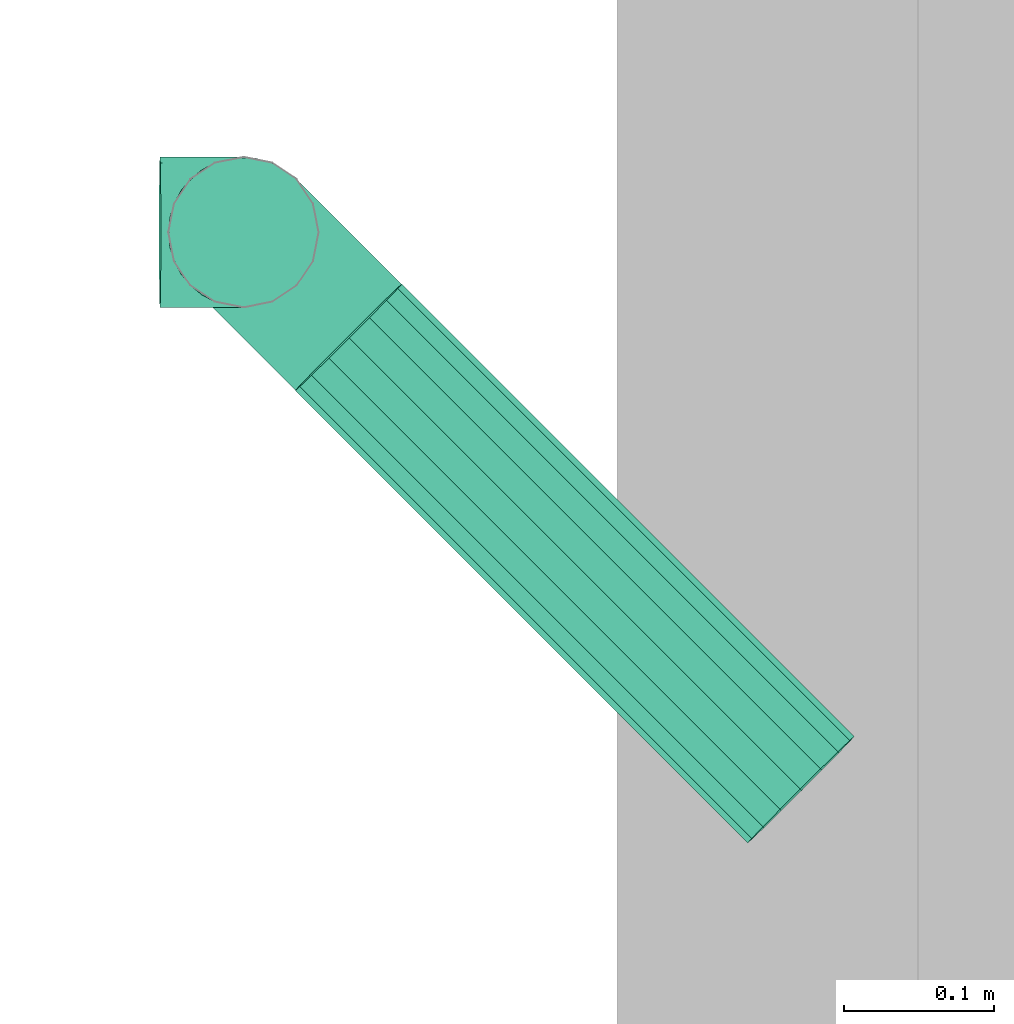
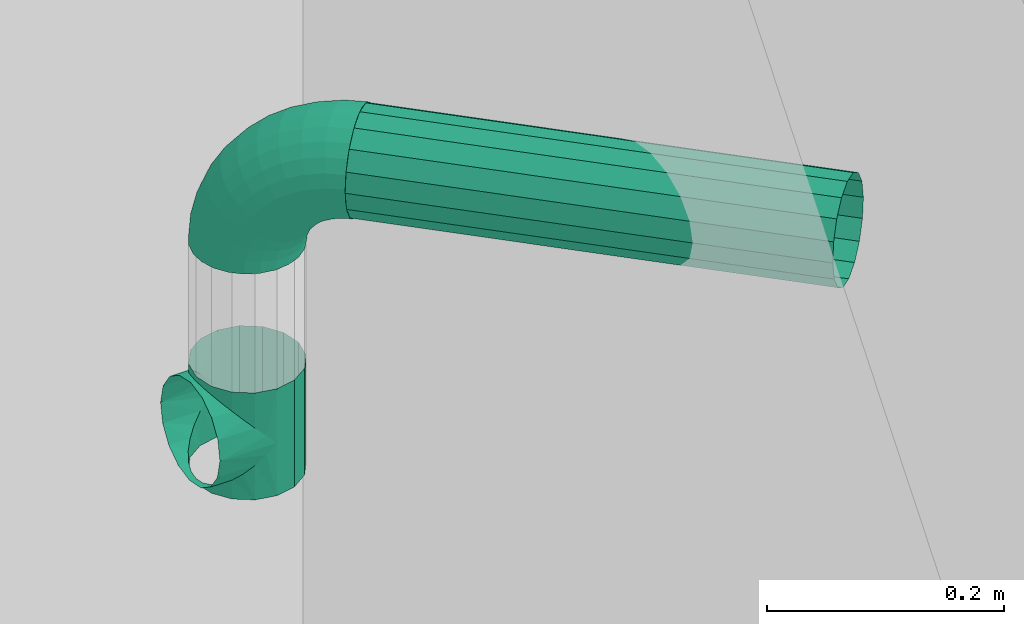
# One storey, part 20 of 22: 2 flow fittings, 1 flow segment.
"""IFC2X3 building model written with IfcOpenShell, lengths in metres."""

from ifc_helpers import new_model, entity, si_unit, converted_unit, derived_unit, money_unit, direction, frame, origin_with_axes, place, context, subcontext, project, spatial, open_shell, faceted_brep, surface_model, material, type_object, element, save


model = new_model("IFC2X3")

# Units and contexts
model_context = context("Model", 3, precision=1e-05, world=origin_with_axes(), true_north=direction((0.0, 1.0)))
body_context = subcontext(model_context, "Body", "Model", "MODEL_VIEW", scale=1.0)
ifc_project = project(units=[si_unit("LENGTHUNIT", "METRE"), si_unit("AREAUNIT", "SQUARE_METRE"), si_unit("VOLUMEUNIT", "CUBIC_METRE"), si_unit("ABSORBEDDOSEUNIT", "GRAY"), si_unit("AMOUNTOFSUBSTANCEUNIT", "MOLE"), si_unit("DOSEEQUIVALENTUNIT", "SIEVERT"), si_unit("ELECTRICCAPACITANCEUNIT", "FARAD"), si_unit("ELECTRICCHARGEUNIT", "COULOMB"), si_unit("ELECTRICCONDUCTANCEUNIT", "SIEMENS"), si_unit("ELECTRICCURRENTUNIT", "AMPERE"), si_unit("ELECTRICRESISTANCEUNIT", "OHM"), si_unit("ELECTRICVOLTAGEUNIT", "VOLT"), si_unit("ENERGYUNIT", "JOULE"), si_unit("FORCEUNIT", "NEWTON"), si_unit("FREQUENCYUNIT", "HERTZ"), si_unit("ILLUMINANCEUNIT", "LUX"), si_unit("INDUCTANCEUNIT", "HENRY"), si_unit("LUMINOUSFLUXUNIT", "LUMEN"), si_unit("LUMINOUSINTENSITYUNIT", "CANDELA"), si_unit("MAGNETICFLUXDENSITYUNIT", "TESLA"), si_unit("MAGNETICFLUXUNIT", "WEBER"), si_unit("MASSUNIT", "GRAM"), converted_unit("PLANEANGLEUNIT", "degree", entity("IfcReal", 0.0174532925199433), si_unit("PLANEANGLEUNIT", "RADIAN"), dimensions=[0, 0, 0, 0, 0, 0, 0]), si_unit("POWERUNIT", "WATT"), si_unit("PRESSUREUNIT", "PASCAL"), si_unit("RADIOACTIVITYUNIT", "BECQUEREL"), si_unit("SOLIDANGLEUNIT", "STERADIAN"), si_unit("THERMODYNAMICTEMPERATUREUNIT", "KELVIN"), si_unit("TIMEUNIT", "SECOND"), derived_unit("ACCELERATIONUNIT", [(si_unit("LENGTHUNIT", "METRE"), 1), (si_unit("TIMEUNIT", "SECOND"), -2)]), derived_unit("ANGULARVELOCITYUNIT", [(converted_unit("PLANEANGLEUNIT", "degree", entity("IfcReal", 0.0174532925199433), si_unit("PLANEANGLEUNIT", "RADIAN"), dimensions=[0, 0, 0, 0, 0, 0, 0]), 1), (si_unit("TIMEUNIT", "SECOND"), -1)]), derived_unit("CURVATUREUNIT", [(converted_unit("PLANEANGLEUNIT", "degree", entity("IfcReal", 0.0174532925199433), si_unit("PLANEANGLEUNIT", "RADIAN"), dimensions=[0, 0, 0, 0, 0, 0, 0]), 1), (si_unit("LENGTHUNIT", "METRE"), -1)]), derived_unit("DYNAMICVISCOSITYUNIT", [(si_unit("PRESSUREUNIT", "PASCAL"), 1), (si_unit("TIMEUNIT", "SECOND"), 1)]), derived_unit("HEATFLUXDENSITYUNIT", [(si_unit("POWERUNIT", "WATT"), 1), (si_unit("LENGTHUNIT", "METRE"), -2)]), derived_unit("HEATINGVALUEUNIT", [(si_unit("ENERGYUNIT", "JOULE"), 1), (si_unit("MASSUNIT", "GRAM"), -1)]), derived_unit("INTEGERCOUNTRATEUNIT", [(si_unit("TIMEUNIT", "SECOND"), -1)]), derived_unit("IONCONCENTRATIONUNIT", [(si_unit("MASSUNIT", "GRAM"), 1), (si_unit("VOLUMEUNIT", "CUBIC_METRE"), -1)]), derived_unit("ISOTHERMALMOISTURECAPACITYUNIT", [(si_unit("VOLUMEUNIT", "CUBIC_METRE"), 1), (si_unit("MASSUNIT", "GRAM"), -1)]), derived_unit("KINEMATICVISCOSITYUNIT", [(si_unit("AREAUNIT", "SQUARE_METRE"), 1), (si_unit("TIMEUNIT", "SECOND"), -1)]), derived_unit("LINEARFORCEUNIT", [(si_unit("FORCEUNIT", "NEWTON"), 1), (si_unit("LENGTHUNIT", "METRE"), -1)]), derived_unit("LINEARMOMENTUNIT", [(si_unit("FORCEUNIT", "NEWTON"), 1), (si_unit("LENGTHUNIT", "METRE"), -1)]), derived_unit("LINEARSTIFFNESSUNIT", [(si_unit("FORCEUNIT", "NEWTON"), 1), (si_unit("LENGTHUNIT", "METRE"), -1)]), derived_unit("LINEARVELOCITYUNIT", [(si_unit("LENGTHUNIT", "METRE"), 1), (si_unit("TIMEUNIT", "SECOND"), -1)]), derived_unit("LUMINOUSINTENSITYDISTRIBUTIONUNIT", [(si_unit("LUMINOUSINTENSITYUNIT", "CANDELA"), 1), (si_unit("LUMINOUSFLUXUNIT", "LUMEN"), -1)]), derived_unit("MASSDENSITYUNIT", [(si_unit("MASSUNIT", "GRAM"), 1), (si_unit("VOLUMEUNIT", "CUBIC_METRE"), -1)]), derived_unit("MASSFLOWRATEUNIT", [(si_unit("MASSUNIT", "GRAM"), 1), (si_unit("TIMEUNIT", "SECOND"), -1)]), derived_unit("MASSPERLENGTHUNIT", [(si_unit("MASSUNIT", "GRAM"), 1), (si_unit("LENGTHUNIT", "METRE"), -1)]), derived_unit("MODULUSOFELASTICITYUNIT", [(si_unit("FORCEUNIT", "NEWTON"), 1), (si_unit("AREAUNIT", "SQUARE_METRE"), -1)]), derived_unit("MODULUSOFLINEARSUBGRADEREACTIONUNIT", [(si_unit("FORCEUNIT", "NEWTON"), 1), (si_unit("LENGTHUNIT", "METRE"), -2)]), derived_unit("MODULUSOFROTATIONALSUBGRADEREACTIONUNIT", [(si_unit("FORCEUNIT", "NEWTON"), 1), (si_unit("LENGTHUNIT", "METRE"), 1)]), derived_unit("MODULUSOFSUBGRADEREACTIONUNIT", [(si_unit("FORCEUNIT", "NEWTON"), 1), (si_unit("VOLUMEUNIT", "CUBIC_METRE"), -1)]), derived_unit("MOISTUREDIFFUSIVITYUNIT", [(si_unit("VOLUMEUNIT", "CUBIC_METRE"), 1), (si_unit("TIMEUNIT", "SECOND"), -1)]), derived_unit("MOLECULARWEIGHTUNIT", [(si_unit("MASSUNIT", "GRAM"), 1), (si_unit("AMOUNTOFSUBSTANCEUNIT", "MOLE"), -1)]), derived_unit("PLANARFORCEUNIT", [(si_unit("FORCEUNIT", "NEWTON"), 1), (si_unit("LENGTHUNIT", "METRE"), -2)]), derived_unit("ROTATIONALFREQUENCYUNIT", [(si_unit("TIMEUNIT", "SECOND"), -1)]), derived_unit("ROTATIONALMASSUNIT", [(si_unit("MASSUNIT", "GRAM"), 1), (si_unit("LENGTHUNIT", "METRE"), 2)]), derived_unit("ROTATIONALSTIFFNESSUNIT", [(si_unit("FORCEUNIT", "NEWTON"), 1), (si_unit("LENGTHUNIT", "METRE"), 1), (converted_unit("PLANEANGLEUNIT", "degree", entity("IfcReal", 0.0174532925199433), si_unit("PLANEANGLEUNIT", "RADIAN"), dimensions=[0, 0, 0, 0, 0, 0, 0]), -1)]), derived_unit("SECTIONAREAINTEGRALUNIT", [(si_unit("LENGTHUNIT", "METRE"), 5)]), derived_unit("SECTIONMODULUSUNIT", [(si_unit("LENGTHUNIT", "METRE"), 3)]), derived_unit("SHEARMODULUSUNIT", [(si_unit("FORCEUNIT", "NEWTON"), 1), (si_unit("AREAUNIT", "SQUARE_METRE"), -1)]), derived_unit("SOUNDPOWERUNIT", [(si_unit("ENERGYUNIT", "JOULE"), 1), (si_unit("TIMEUNIT", "SECOND"), -1)]), derived_unit("SPECIFICHEATCAPACITYUNIT", [(si_unit("FORCEUNIT", "NEWTON"), 1), (si_unit("MASSUNIT", "GRAM"), -1), (si_unit("THERMODYNAMICTEMPERATUREUNIT", "KELVIN"), -1)]), derived_unit("TEMPERATUREGRADIENTUNIT", [(si_unit("THERMODYNAMICTEMPERATUREUNIT", "KELVIN"), 1), (si_unit("LENGTHUNIT", "METRE"), -1)]), derived_unit("THERMALADMITTANCEUNIT", [(si_unit("POWERUNIT", "WATT"), 1), (si_unit("AREAUNIT", "SQUARE_METRE"), -1), (si_unit("THERMODYNAMICTEMPERATUREUNIT", "KELVIN"), -1)]), derived_unit("THERMALCONDUCTANCEUNIT", [(si_unit("POWERUNIT", "WATT"), 1), (si_unit("LENGTHUNIT", "METRE"), -1), (si_unit("THERMODYNAMICTEMPERATUREUNIT", "KELVIN"), -1)]), derived_unit("THERMALEXPANSIONCOEFFICIENTUNIT", [(si_unit("THERMODYNAMICTEMPERATUREUNIT", "KELVIN"), -1)]), derived_unit("THERMALRESISTANCEUNIT", [(si_unit("AREAUNIT", "SQUARE_METRE"), 1), (si_unit("POWERUNIT", "WATT"), -1)]), derived_unit("THERMALTRANSMITTANCEUNIT", [(si_unit("POWERUNIT", "WATT"), 1), (si_unit("AREAUNIT", "SQUARE_METRE"), -1), (si_unit("THERMODYNAMICTEMPERATUREUNIT", "KELVIN"), -1)]), derived_unit("TORQUEUNIT", [(si_unit("FORCEUNIT", "NEWTON"), 1), (si_unit("LENGTHUNIT", "METRE"), 1)]), derived_unit("VAPORPERMEABILITYUNIT", [(si_unit("MASSUNIT", "GRAM"), 1), (si_unit("TIMEUNIT", "SECOND"), -1)]), derived_unit("VOLUMETRICFLOWRATEUNIT", [(si_unit("VOLUMEUNIT", "CUBIC_METRE"), 1), (si_unit("TIMEUNIT", "SECOND"), -1)]), derived_unit("WARPINGCONSTANTUNIT", [(si_unit("LENGTHUNIT", "METRE"), 6)]), derived_unit("WARPINGMOMENTUNIT", [(si_unit("FORCEUNIT", "NEWTON"), 1), (si_unit("LENGTHUNIT", "METRE"), 2)]), money_unit("GBP")], contexts=[model_context])

# Site, building, storey, space
site_placement = place(None, origin_with_axes())
site = spatial("IfcSite", under=ifc_project, at=site_placement, Name="Site", CompositionType="ELEMENT")
building_placement = place(site_placement, origin_with_axes())
building = spatial("IfcBuilding", under=site, at=building_placement, Name="Building01", CompositionType="ELEMENT")
storey_placement = place(building_placement, frame((0.0, 0.0, 2.6), z_axis=(0.0, 0.0, 1.0), x_axis=(1.0, 0.0, 0.0)))
storey = spatial("IfcBuildingStorey", under=building, at=storey_placement, Name="MF", CompositionType="ELEMENT", Elevation=2.6)
space_placement = place(storey_placement, frame((17.626946, 6.196984, 0.0), z_axis=(0.0, 0.0, 1.0), x_axis=(1.0, 0.0, 0.0)))
space = spatial("IfcSpace", under=storey, at=space_placement, Name="1", CompositionType="ELEMENT", InteriorOrExteriorSpace="NOTDEFINED")

# Flow segment
ifc_material = material(Name="M_BSUK_ColdWater")
pipe_segment_type = type_object("IfcPipeSegmentType", Name="M-BmpStraightpipe-DefaultPipe", PredefinedType="RIGIDSEGMENT")
placement = place(building_placement, origin_with_axes())
flow_segment_placement = place(placement, frame((19.225252, 8.146196, 4.61698), z_axis=(-0.00883814, 0.00883814, 0.99992188), x_axis=(-0.70705155, 0.70705154, -0.01249902)))
element("IfcFlowSegment", 1, at=flow_segment_placement, inside=space, type_object=pipe_segment_type, material=ifc_material, Name="M-BmpStraightpipe-DefaultPipe", ObjectType="M-BmpStraightpipe-DefaultPipe", context=body_context, shape_type="Brep", body=[
    faceted_brep([(0.425554, 0.0, -0.05), (0.0, 0.0, -0.05), (0.0, 0.019134, -0.046194), (0.425554, 0.019134, -0.046194), (0.0, 0.035355, -0.035355), (0.425554, 0.035355, -0.035355), (0.0, 0.046194, -0.019134), (0.425554, 0.046194, -0.019134), (0.0, 0.05, 0.0), (0.425554, 0.05, 0.0), (0.0, 0.046194, 0.019134), (0.425554, 0.046194, 0.019134), (0.0, 0.035355, 0.035355), (0.425554, 0.035355, 0.035355), (0.0, 0.019134, 0.046194), (0.425554, 0.019134, 0.046194), (0.0, 0.0, 0.05), (0.425554, 0.0, 0.05), (0.0, -0.019134, 0.046194), (0.425554, -0.019134, 0.046194), (0.0, -0.035355, 0.035355), (0.425554, -0.035355, 0.035355), (0.0, -0.046194, 0.019134), (0.425554, -0.046194, 0.019134), (0.0, -0.05, 0.0), (0.425554, -0.05, 0.0), (0.0, -0.046194, -0.019134), (0.425554, -0.046194, -0.019134), (0.0, -0.035355, -0.035355), (0.425554, -0.035355, -0.035355), (0.0, -0.019134, -0.046194), (0.425554, -0.019134, -0.046194)], [[[0, 1, 2, 3]], [[3, 2, 4, 5]], [[5, 4, 6, 7]], [[7, 6, 8, 9]], [[9, 8, 10, 11]], [[11, 10, 12, 13]], [[13, 12, 14, 15]], [[15, 14, 16, 17]], [[17, 16, 18, 19]], [[19, 18, 20, 21]], [[21, 20, 22, 23]], [[23, 22, 24, 25]], [[25, 24, 26, 27]], [[27, 26, 28, 29]], [[29, 28, 30, 31]], [[31, 30, 1, 0]]]),
])

# Flow fittings
pipe_fitting_type_1 = type_object("IfcPipeFittingType", Name="M-BmpElbow-DefaultElbow", PredefinedType="BEND")
flow_fitting_1_placement = place(placement, frame((18.924364, 8.447085, 4.611661), z_axis=(-0.00883814, 0.00883814, 0.99992188), x_axis=(-0.70705155, 0.70705154, -0.01249902)))
element("IfcFlowFitting", 2, at=flow_fitting_1_placement, inside=space, type_object=pipe_fitting_type_1, material=ifc_material, Name="M-BmpElbow-DefaultElbow", ObjectType="M-BmpElbow-DefaultElbow", context=body_context, shape_type="SurfaceModel", body=[
    surface_model("IfcShellBasedSurfaceModel", [(0.008048, -0.01349, -0.048774), (0.0, -0.01349, -0.048146), (0.0, 0.0, -0.05), (0.00776, 0.0, -0.050606), (0.0159, -0.01349, -0.050644), (0.015332, 0.0, -0.052409), (0.023368, -0.01349, -0.05371), (0.022532, 0.0, -0.055365), (0.030269, -0.01349, -0.057897), (0.029187, 0.0, -0.059403), (0.036437, -0.01349, -0.063105), (0.035134, 0.0, -0.064424), (0.041721, -0.01349, -0.069207), (0.040229, 0.0, -0.070308), (0.045995, -0.01349, -0.076055), (0.04435, 0.0, -0.076912), (0.049154, -0.01349, -0.083484), (0.047396, 0.0, -0.084074), (0.051121, -0.01349, -0.091313), (0.049293, 0.0, -0.091623), (0.05185, -0.01349, -0.099352), (0.049996, 0.0, -0.099375), (0.00889, -0.025979, -0.043415), (0.0, -0.025979, -0.042721), (0.017564, -0.025979, -0.04548), (0.025813, -0.025979, -0.048867), (0.033436, -0.025979, -0.053493), (0.040248, -0.025979, -0.059245), (0.046086, -0.025979, -0.065986), (0.050807, -0.025979, -0.07355), (0.054296, -0.025979, -0.081756), (0.056469, -0.025979, -0.090404), (0.057275, -0.025979, -0.099284), (0.010223, -0.036542, -0.034926), (0.0, -0.036542, -0.034128), (0.020199, -0.036542, -0.037301), (0.029685, -0.036542, -0.041196), (0.038452, -0.036542, -0.046515), (0.046287, -0.036542, -0.053131), (0.053, -0.036542, -0.060883), (0.058429, -0.036542, -0.069582), (0.062442, -0.036542, -0.079019), (0.064941, -0.036542, -0.088964), (0.065867, -0.036542, -0.099177), (0.01195, -0.044394, -0.023936), (0.0, -0.044394, -0.023003), (0.02361, -0.044394, -0.026712), (0.034698, -0.044394, -0.031265), (0.044946, -0.044394, -0.037483), (0.054104, -0.044394, -0.045216), (0.061951, -0.044394, -0.054277), (0.068296, -0.044394, -0.064445), (0.072987, -0.044394, -0.075476), (0.075908, -0.044394, -0.0871), (0.076991, -0.044394, -0.099038), (0.013941, -0.048954, -0.011261), (0.0, -0.048954, -0.010173), (0.027544, -0.048954, -0.0145), (0.04048, -0.048954, -0.019811), (0.052435, -0.048954, -0.027065), (0.063119, -0.048954, -0.036087), (0.072274, -0.048954, -0.046657), (0.079677, -0.048954, -0.058521), (0.085149, -0.048954, -0.071389), (0.088558, -0.048954, -0.084951), (0.08982, -0.048954, -0.098877), (0.01605, -0.049883, 0.002159), (0.0, -0.049883, 0.003412), (0.03171, -0.049883, -0.00157), (0.046602, -0.049883, -0.007684), (0.060365, -0.049883, -0.016035), (0.072665, -0.049883, -0.026421), (0.083204, -0.049883, -0.03859), (0.091727, -0.049883, -0.052247), (0.098026, -0.049883, -0.067062), (0.101951, -0.049883, -0.082675), (0.103404, -0.049883, -0.098707), (0.018119, -0.047113, 0.015329), (0.0, -0.047113, 0.016744), (0.035798, -0.047113, 0.01112), (0.05261, -0.047113, 0.004218), (0.068147, -0.047113, -0.00521), (0.082033, -0.047113, -0.016935), (0.093931, -0.047113, -0.030673), (0.103552, -0.047113, -0.046091), (0.110664, -0.047113, -0.062816), (0.115094, -0.047113, -0.080441), (0.116735, -0.047113, -0.098541), (0.019995, -0.040848, 0.027273), (0.0, -0.040848, 0.028834), (0.039505, -0.040848, 0.022628), (0.058059, -0.040848, 0.01501), (0.075205, -0.040848, 0.004606), (0.090528, -0.040848, -0.008333), (0.103658, -0.040848, -0.023494), (0.114276, -0.040848, -0.040508), (0.122124, -0.040848, -0.058965), (0.127013, -0.040848, -0.078416), (0.128824, -0.040848, -0.09839), (0.021539, -0.031554, 0.037104), (0.0, -0.031554, 0.038786), (0.042557, -0.031554, 0.0321), (0.062543, -0.031554, 0.023894), (0.081014, -0.031554, 0.012686), (0.097521, -0.031554, -0.001252), (0.111665, -0.031554, -0.017584), (0.123103, -0.031554, -0.035913), (0.131557, -0.031554, -0.055795), (0.136824, -0.031554, -0.076749), (0.138775, -0.031554, -0.098265), (0.022638, -0.01992, 0.044093), (0.0, -0.01992, 0.045861), (0.044726, -0.01992, 0.038834), (0.065732, -0.01992, 0.03021), (0.085144, -0.01992, 0.018431), (0.102492, -0.01992, 0.003782), (0.117357, -0.01992, -0.013383), (0.129378, -0.01992, -0.032646), (0.138264, -0.01992, -0.053542), (0.143799, -0.01992, -0.075563), (0.145849, -0.01992, -0.098177), (0.023208, -0.006808, 0.047722), (0.0, -0.006808, 0.049534), (0.045853, -0.006808, 0.042331), (0.067387, -0.006808, 0.03349), (0.087288, -0.006808, 0.021414), (0.105074, -0.006808, 0.006395), (0.120313, -0.006808, -0.011201), (0.132637, -0.006808, -0.03095), (0.141746, -0.006808, -0.052372), (0.147421, -0.006808, -0.074948), (0.149523, -0.006808, -0.098131), (0.023208, 0.006808, 0.047722), (0.0, 0.006808, 0.049534), (0.045853, 0.006808, 0.042331), (0.067387, 0.006808, 0.03349), (0.087288, 0.006808, 0.021414), (0.105074, 0.006808, 0.006395), (0.120313, 0.006808, -0.011201), (0.132637, 0.006808, -0.03095), (0.141746, 0.006808, -0.052372), (0.147421, 0.006808, -0.074948), (0.149523, 0.006808, -0.098131), (0.022638, 0.01992, 0.044093), (0.0, 0.01992, 0.045861), (0.044726, 0.01992, 0.038834), (0.065732, 0.01992, 0.03021), (0.085144, 0.01992, 0.018431), (0.102492, 0.01992, 0.003782), (0.117357, 0.01992, -0.013383), (0.129378, 0.01992, -0.032646), (0.138264, 0.01992, -0.053542), (0.143799, 0.01992, -0.075563), (0.145849, 0.01992, -0.098177), (0.021539, 0.031554, 0.037104), (0.0, 0.031554, 0.038786), (0.042557, 0.031554, 0.0321), (0.062543, 0.031554, 0.023894), (0.081014, 0.031554, 0.012686), (0.097521, 0.031554, -0.001252), (0.111665, 0.031554, -0.017584), (0.123103, 0.031554, -0.035913), (0.131557, 0.031554, -0.055795), (0.136824, 0.031554, -0.076749), (0.138775, 0.031554, -0.098265), (0.019995, 0.040848, 0.027273), (0.0, 0.040848, 0.028834), (0.039505, 0.040848, 0.022628), (0.058059, 0.040848, 0.01501), (0.075205, 0.040848, 0.004606), (0.090528, 0.040848, -0.008333), (0.103658, 0.040848, -0.023494), (0.114276, 0.040848, -0.040508), (0.122124, 0.040848, -0.058965), (0.127013, 0.040848, -0.078416), (0.128824, 0.040848, -0.09839), (0.018119, 0.047113, 0.015329), (0.0, 0.047113, 0.016744), (0.035798, 0.047113, 0.01112), (0.05261, 0.047113, 0.004218), (0.068147, 0.047113, -0.00521), (0.082033, 0.047113, -0.016935), (0.093931, 0.047113, -0.030673), (0.103552, 0.047113, -0.046091), (0.110664, 0.047113, -0.062816), (0.115094, 0.047113, -0.080441), (0.116735, 0.047113, -0.098541), (0.01605, 0.049883, 0.002159), (0.0, 0.049883, 0.003412), (0.03171, 0.049883, -0.00157), (0.046602, 0.049883, -0.007684), (0.060365, 0.049883, -0.016035), (0.072665, 0.049883, -0.026421), (0.083204, 0.049883, -0.03859), (0.091727, 0.049883, -0.052247), (0.098026, 0.049883, -0.067062), (0.101951, 0.049883, -0.082675), (0.103404, 0.049883, -0.098707), (0.013941, 0.048954, -0.011261), (0.0, 0.048954, -0.010173), (0.027544, 0.048954, -0.0145), (0.04048, 0.048954, -0.019811), (0.052435, 0.048954, -0.027065), (0.063119, 0.048954, -0.036087), (0.072274, 0.048954, -0.046657), (0.079677, 0.048954, -0.058521), (0.085149, 0.048954, -0.071389), (0.088558, 0.048954, -0.084951), (0.08982, 0.048954, -0.098877), (0.01195, 0.044394, -0.023936), (0.0, 0.044394, -0.023003), (0.02361, 0.044394, -0.026712), (0.034698, 0.044394, -0.031265), (0.044946, 0.044394, -0.037483), (0.054104, 0.044394, -0.045216), (0.061951, 0.044394, -0.054277), (0.068296, 0.044394, -0.064445), (0.072987, 0.044394, -0.075476), (0.075908, 0.044394, -0.0871), (0.076991, 0.044394, -0.099038), (0.010223, 0.036542, -0.034926), (0.0, 0.036542, -0.034128), (0.020199, 0.036542, -0.037301), (0.029685, 0.036542, -0.041196), (0.038452, 0.036542, -0.046515), (0.046287, 0.036542, -0.053131), (0.053, 0.036542, -0.060883), (0.058429, 0.036542, -0.069582), (0.062442, 0.036542, -0.079019), (0.064941, 0.036542, -0.088964), (0.065867, 0.036542, -0.099177), (0.00889, 0.025979, -0.043415), (0.0, 0.025979, -0.042721), (0.017564, 0.025979, -0.04548), (0.025813, 0.025979, -0.048867), (0.033436, 0.025979, -0.053493), (0.040248, 0.025979, -0.059245), (0.046086, 0.025979, -0.065986), (0.050807, 0.025979, -0.07355), (0.054296, 0.025979, -0.081756), (0.056469, 0.025979, -0.090404), (0.057275, 0.025979, -0.099284), (0.008048, 0.01349, -0.048774), (0.0, 0.01349, -0.048146), (0.0159, 0.01349, -0.050644), (0.023368, 0.01349, -0.05371), (0.030269, 0.01349, -0.057897), (0.036437, 0.01349, -0.063105), (0.041721, 0.01349, -0.069207), (0.045995, 0.01349, -0.076055), (0.049154, 0.01349, -0.083484), (0.051121, 0.01349, -0.091313), (0.05185, 0.01349, -0.099352)], [open_shell([[[0, 1, 2, 3]], [[4, 0, 3, 5]], [[6, 4, 5, 7]], [[8, 6, 7, 9]], [[10, 8, 9, 11]], [[12, 10, 11, 13]], [[14, 12, 13, 15]], [[16, 14, 15, 17]], [[18, 16, 17, 19]], [[20, 18, 19, 21]], [[22, 23, 1, 0]], [[24, 22, 0, 4]], [[25, 24, 4, 6]], [[26, 25, 6, 8]], [[27, 26, 8, 10]], [[28, 27, 10, 12]], [[29, 28, 12, 14]], [[30, 29, 14, 16]], [[31, 30, 16, 18]], [[32, 31, 18, 20]], [[33, 34, 23, 22]], [[35, 33, 22, 24]], [[36, 35, 24, 25]], [[37, 36, 25, 26]], [[38, 37, 26, 27]], [[39, 38, 27, 28]], [[40, 39, 28, 29]], [[41, 40, 29, 30]], [[42, 41, 30, 31]], [[43, 42, 31, 32]], [[44, 45, 34, 33]], [[46, 44, 33, 35]], [[47, 46, 35, 36]], [[48, 47, 36, 37]], [[49, 48, 37, 38]], [[50, 49, 38, 39]], [[51, 50, 39, 40]], [[52, 51, 40, 41]], [[53, 52, 41, 42]], [[54, 53, 42, 43]], [[55, 56, 45, 44]], [[57, 55, 44, 46]], [[58, 57, 46, 47]], [[59, 58, 47, 48]], [[60, 59, 48, 49]], [[61, 60, 49, 50]], [[62, 61, 50, 51]], [[63, 62, 51, 52]], [[64, 63, 52, 53]], [[65, 64, 53, 54]], [[66, 67, 56, 55]], [[68, 66, 55, 57]], [[69, 68, 57, 58]], [[70, 69, 58, 59]], [[71, 70, 59, 60]], [[72, 71, 60, 61]], [[73, 72, 61, 62]], [[74, 73, 62, 63]], [[75, 74, 63, 64]], [[76, 75, 64, 65]], [[77, 78, 67, 66]], [[79, 77, 66, 68]], [[80, 79, 68, 69]], [[81, 80, 69, 70]], [[82, 81, 70, 71]], [[83, 82, 71, 72]], [[84, 83, 72, 73]], [[85, 84, 73, 74]], [[86, 85, 74, 75]], [[87, 86, 75, 76]], [[88, 89, 78, 77]], [[90, 88, 77, 79]], [[91, 90, 79, 80]], [[92, 91, 80, 81]], [[93, 92, 81, 82]], [[94, 93, 82, 83]], [[95, 94, 83, 84]], [[96, 95, 84, 85]], [[97, 96, 85, 86]], [[98, 97, 86, 87]], [[99, 100, 89, 88]], [[101, 99, 88, 90]], [[102, 101, 90, 91]], [[103, 102, 91, 92]], [[104, 103, 92, 93]], [[105, 104, 93, 94]], [[106, 105, 94, 95]], [[107, 106, 95, 96]], [[108, 107, 96, 97]], [[109, 108, 97, 98]], [[110, 111, 100, 99]], [[112, 110, 99, 101]], [[113, 112, 101, 102]], [[114, 113, 102, 103]], [[115, 114, 103, 104]], [[116, 115, 104, 105]], [[117, 116, 105, 106]], [[118, 117, 106, 107]], [[119, 118, 107, 108]], [[120, 119, 108, 109]], [[121, 122, 111, 110]], [[123, 121, 110, 112]], [[124, 123, 112, 113]], [[125, 124, 113, 114]], [[126, 125, 114, 115]], [[127, 126, 115, 116]], [[128, 127, 116, 117]], [[129, 128, 117, 118]], [[130, 129, 118, 119]], [[131, 130, 119, 120]], [[132, 133, 122, 121]], [[134, 132, 121, 123]], [[135, 134, 123, 124]], [[136, 135, 124, 125]], [[137, 136, 125, 126]], [[138, 137, 126, 127]], [[139, 138, 127, 128]], [[140, 139, 128, 129]], [[141, 140, 129, 130]], [[142, 141, 130, 131]], [[143, 144, 133, 132]], [[145, 143, 132, 134]], [[146, 145, 134, 135]], [[147, 146, 135, 136]], [[148, 147, 136, 137]], [[149, 148, 137, 138]], [[150, 149, 138, 139]], [[151, 150, 139, 140]], [[152, 151, 140, 141]], [[153, 152, 141, 142]], [[154, 155, 144, 143]], [[156, 154, 143, 145]], [[157, 156, 145, 146]], [[158, 157, 146, 147]], [[159, 158, 147, 148]], [[160, 159, 148, 149]], [[161, 160, 149, 150]], [[162, 161, 150, 151]], [[163, 162, 151, 152]], [[164, 163, 152, 153]], [[165, 166, 155, 154]], [[167, 165, 154, 156]], [[168, 167, 156, 157]], [[169, 168, 157, 158]], [[170, 169, 158, 159]], [[171, 170, 159, 160]], [[172, 171, 160, 161]], [[173, 172, 161, 162]], [[174, 173, 162, 163]], [[175, 174, 163, 164]], [[176, 177, 166, 165]], [[178, 176, 165, 167]], [[179, 178, 167, 168]], [[180, 179, 168, 169]], [[181, 180, 169, 170]], [[182, 181, 170, 171]], [[183, 182, 171, 172]], [[184, 183, 172, 173]], [[185, 184, 173, 174]], [[186, 185, 174, 175]], [[187, 188, 177, 176]], [[189, 187, 176, 178]], [[190, 189, 178, 179]], [[191, 190, 179, 180]], [[192, 191, 180, 181]], [[193, 192, 181, 182]], [[194, 193, 182, 183]], [[195, 194, 183, 184]], [[196, 195, 184, 185]], [[197, 196, 185, 186]], [[198, 199, 188, 187]], [[200, 198, 187, 189]], [[201, 200, 189, 190]], [[202, 201, 190, 191]], [[203, 202, 191, 192]], [[204, 203, 192, 193]], [[205, 204, 193, 194]], [[206, 205, 194, 195]], [[207, 206, 195, 196]], [[208, 207, 196, 197]], [[209, 210, 199, 198]], [[211, 209, 198, 200]], [[212, 211, 200, 201]], [[213, 212, 201, 202]], [[214, 213, 202, 203]], [[215, 214, 203, 204]], [[216, 215, 204, 205]], [[217, 216, 205, 206]], [[218, 217, 206, 207]], [[219, 218, 207, 208]], [[220, 221, 210, 209]], [[222, 220, 209, 211]], [[223, 222, 211, 212]], [[224, 223, 212, 213]], [[225, 224, 213, 214]], [[226, 225, 214, 215]], [[227, 226, 215, 216]], [[228, 227, 216, 217]], [[229, 228, 217, 218]], [[230, 229, 218, 219]], [[231, 232, 221, 220]], [[233, 231, 220, 222]], [[234, 233, 222, 223]], [[235, 234, 223, 224]], [[236, 235, 224, 225]], [[237, 236, 225, 226]], [[238, 237, 226, 227]], [[239, 238, 227, 228]], [[240, 239, 228, 229]], [[241, 240, 229, 230]], [[242, 243, 232, 231]], [[244, 242, 231, 233]], [[245, 244, 233, 234]], [[246, 245, 234, 235]], [[247, 246, 235, 236]], [[248, 247, 236, 237]], [[249, 248, 237, 238]], [[250, 249, 238, 239]], [[251, 250, 239, 240]], [[252, 251, 240, 241]], [[3, 2, 243, 242]], [[5, 3, 242, 244]], [[7, 5, 244, 245]], [[9, 7, 245, 246]], [[11, 9, 246, 247]], [[13, 11, 247, 248]], [[15, 13, 248, 249]], [[17, 15, 249, 250]], [[19, 17, 250, 251]], [[21, 19, 251, 252]]])]),
])
pipe_fitting_type_2 = type_object("IfcPipeFittingType", Name="M-BmpTee-DefaultTee", PredefinedType="JUNCTION")
flow_fitting_2_placement = place(placement, frame((18.854537, 8.516912, 4.28404), z_axis=(1.0, 0.0, 0.0), x_axis=(0.0, 0.0, 1.0)))
element("IfcFlowFitting", 3, at=flow_fitting_2_placement, inside=space, type_object=pipe_fitting_type_2, material=ifc_material, Name="M-BmpTee-DefaultTee", ObjectType="M-BmpTee-DefaultTee", context=body_context, shape_type="SurfaceModel", body=[
    surface_model("IfcShellBasedSurfaceModel", [(0.068757, 0.046194, -0.019134), (0.06921, 0.046194, -0.055386), (0.050077, 0.05, -0.055626), (0.085182, 0.035355, -0.035355), (0.08543, 0.035355, -0.055184), (0.096157, 0.019134, -0.046194), (0.096268, 0.019134, -0.055048), (0.099038, 0.009755, -0.049039), (0.100011, 0.0, -0.05), (0.100073, 0.0, -0.055001), (0.099038, -0.009755, -0.049039), (0.096157, -0.019134, -0.046194), (0.096268, -0.019134, -0.055048), (0.091478, -0.027779, -0.041573), (0.085182, -0.035355, -0.035355), (0.08543, -0.035355, -0.055184), (0.07751, -0.041573, -0.027779), (0.068757, -0.046194, -0.019134), (0.06921, -0.046194, -0.055386), (0.059259, -0.049039, -0.009755), (0.049382, -0.05, 0.0), (0.050077, -0.05, -0.055626), (0.030485, -0.046194, -0.019134), (0.030945, -0.046194, -0.055865), (0.014466, -0.035355, -0.035355), (0.014725, -0.035355, -0.056067), (0.003762, -0.019134, -0.046194), (0.003887, -0.019134, -0.056203), (0.000952, -0.009755, -0.049039), (3e-06, 0.0, -0.05), (8.1e-05, 0.0, -0.056251), (0.000952, 0.009755, -0.049039), (0.003762, 0.019134, -0.046194), (0.003887, 0.019134, -0.056203), (0.008325, 0.027779, -0.041573), (0.014466, 0.035355, -0.035355), (0.014725, 0.035355, -0.056067), (0.021948, 0.041573, -0.027779), (0.030485, 0.046194, -0.019134), (0.030945, 0.046194, -0.055865), (0.039749, 0.049039, -0.009755), (0.049382, 0.05, 0.0), (0.008325, -0.027779, -0.041573), (0.021948, -0.041573, -0.027779), (0.039749, -0.049039, -0.009755), (0.091478, 0.027779, -0.041573), (0.07751, 0.041573, -0.027779), (0.059259, 0.049039, -0.009755), (-0.005, -0.05, 0.0), (0.105012, -0.05, 0.0), (0.105012, -0.046194, 0.019134), (-0.005, -0.046194, 0.019134), (0.105012, -0.035355, 0.035355), (-0.005, -0.035355, 0.035355), (0.105012, -0.019134, 0.046194), (-0.005, -0.019134, 0.046194), (0.105012, 0.0, 0.05), (-0.005, 0.0, 0.05), (0.105012, 0.019134, 0.046194), (-0.005, 0.019134, 0.046194), (0.105012, 0.035355, 0.035355), (-0.005, 0.035355, 0.035355), (0.105012, 0.046194, 0.019134), (-0.005, 0.046194, 0.019134), (0.105012, 0.05, 0.0), (-0.005, 0.05, 0.0), (0.105012, -0.046194, -0.019134), (0.105012, -0.035355, -0.035355), (0.105012, -0.019134, -0.046194), (0.105012, 0.0, -0.05), (0.105012, 0.019134, -0.046194), (0.105012, 0.035355, -0.035355), (0.105012, 0.046194, -0.019134), (-0.005, 0.046194, -0.019134), (-0.005, 0.035355, -0.035355), (-0.005, 0.019134, -0.046194), (-0.005, 0.0, -0.05), (-0.005, -0.019134, -0.046194), (-0.005, -0.035355, -0.035355), (-0.005, -0.046194, -0.019134)], [open_shell([[[0, 1, 2]], [[3, 4, 1]], [[5, 6, 4]], [[7, 8, 9]], [[10, 11, 12]], [[13, 14, 15]], [[16, 17, 18]], [[19, 20, 21]], [[22, 23, 21]], [[24, 25, 23]], [[26, 27, 25]], [[28, 29, 30]], [[31, 32, 33]], [[34, 35, 36]], [[37, 38, 39]], [[40, 41, 2]], [[38, 40, 2]], [[2, 39, 38]], [[35, 37, 39]], [[39, 36, 35]], [[32, 34, 36]], [[36, 33, 32]], [[31, 33, 30]], [[30, 29, 31]], [[27, 26, 28]], [[30, 27, 28]], [[25, 24, 42]], [[25, 42, 26]], [[23, 22, 43]], [[23, 43, 24]], [[21, 20, 44]], [[21, 44, 22]], [[17, 19, 21]], [[21, 18, 17]], [[14, 16, 18]], [[18, 15, 14]], [[11, 13, 15]], [[15, 12, 11]], [[10, 12, 9]], [[9, 8, 10]], [[6, 5, 7]], [[9, 6, 7]], [[4, 3, 45]], [[4, 45, 5]], [[1, 0, 46]], [[1, 46, 3]], [[2, 41, 47]], [[2, 47, 0]], [[48, 20, 49, 50, 51]], [[51, 50, 52, 53]], [[53, 52, 54, 55]], [[55, 54, 56, 57]], [[57, 56, 58, 59]], [[59, 58, 60, 61]], [[61, 60, 62, 63]], [[63, 62, 64, 41, 65]], [[17, 66, 49]], [[14, 67, 66]], [[11, 68, 67]], [[10, 8, 69]], [[7, 5, 70]], [[45, 3, 71]], [[46, 0, 72]], [[47, 41, 64]], [[38, 73, 65]], [[35, 74, 73]], [[32, 75, 74]], [[31, 29, 76]], [[28, 26, 77]], [[42, 24, 78]], [[43, 22, 79]], [[44, 20, 48]], [[22, 44, 48]], [[48, 79, 22]], [[24, 43, 79]], [[79, 78, 24]], [[26, 42, 78]], [[78, 77, 26]], [[28, 77, 76]], [[76, 29, 28]], [[75, 32, 31]], [[76, 75, 31]], [[74, 35, 34]], [[74, 34, 32]], [[73, 38, 37]], [[73, 37, 35]], [[65, 41, 40]], [[65, 40, 38]], [[0, 47, 64]], [[64, 72, 0]], [[3, 46, 72]], [[72, 71, 3]], [[5, 45, 71]], [[71, 70, 5]], [[7, 70, 69]], [[69, 8, 7]], [[68, 11, 10]], [[69, 68, 10]], [[67, 14, 13]], [[67, 13, 11]], [[66, 17, 16]], [[66, 16, 14]], [[49, 20, 19]], [[49, 19, 17]]])]),
])

save(model, "model.ifc")
